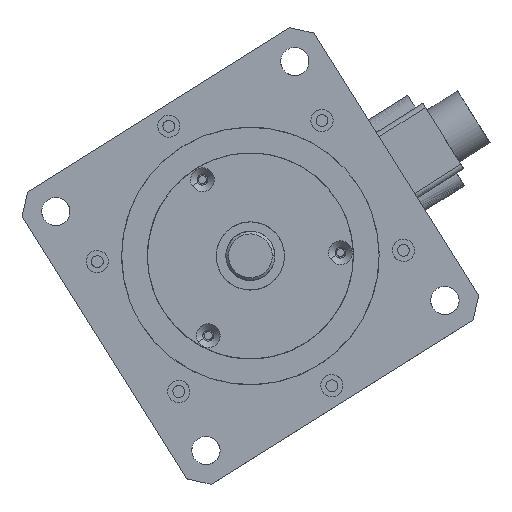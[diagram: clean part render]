
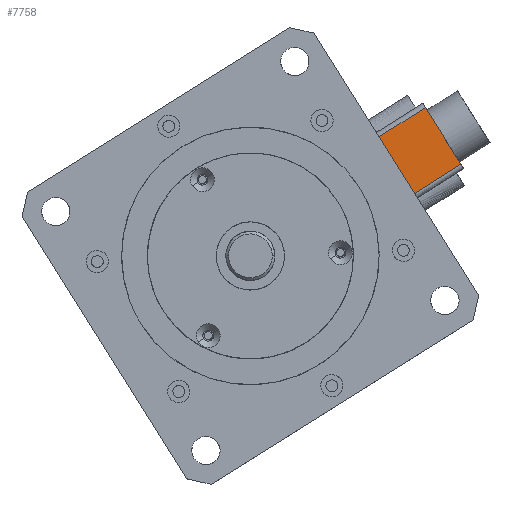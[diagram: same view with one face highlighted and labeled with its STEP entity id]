
A CAD part, top view. The second image highlights one B-rep face of the part: STEP entity #7758.
In plain terms, the highlighted free-form (B-spline) face has degree [1, 1] with [2, 2] control points.
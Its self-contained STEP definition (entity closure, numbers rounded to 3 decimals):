
#73 = CARTESIAN_POINT ( 'NONE',  ( 13., 15., 20.929 ) ) ;
#152 = CARTESIAN_POINT ( 'NONE',  ( 13., 15., -3.3 ) ) ;
#174 = ORIENTED_EDGE ( 'NONE', *, *, #539, .T. ) ;
#539 = EDGE_CURVE ( 'NONE', #8440, #9231, #5257, .T. ) ;
#865 = CARTESIAN_POINT ( 'NONE',  ( 4.36, 15., 19.735 ) ) ;
#1174 = EDGE_CURVE ( 'NONE', #9231, #2225, #7919, .T. ) ;
#1232 = CARTESIAN_POINT ( 'NONE',  ( 13., 15., 21.075 ) ) ;
#1254 = ORIENTED_EDGE ( 'NONE', *, *, #1397, .T. ) ;
#1397 = EDGE_CURVE ( 'NONE', #5768, #8440, #3508, .T. ) ;
#1444 = CARTESIAN_POINT ( 'NONE',  ( 13., 15., 20.929 ) ) ;
#1653 = CARTESIAN_POINT ( 'NONE',  ( -4.36, 15., 19.735 ) ) ;
#2025 = FACE_OUTER_BOUND ( 'NONE', #10025, .T. ) ;
#2225 = VERTEX_POINT ( 'NONE', #4874 ) ;
#2380 = B_SPLINE_CURVE_WITH_KNOTS ( 'NONE', 1,
 ( #152, #3376 ),
 .UNSPECIFIED., .F., .F.,
 ( 2, 2 ),
 ( 0., 1. ),
 .UNSPECIFIED. ) ;
#2458 = CARTESIAN_POINT ( 'NONE',  ( -13., 15., 20.929 ) ) ;
#2506 = CARTESIAN_POINT ( 'NONE',  ( -13., 15., 20.929 ) ) ;
#3376 = CARTESIAN_POINT ( 'NONE',  ( -13., 15., -3.3 ) ) ;
#3508 = B_SPLINE_CURVE_WITH_KNOTS ( 'NONE', 1,
 ( #7293, #2506 ),
 .UNSPECIFIED., .F., .F.,
 ( 2, 2 ),
 ( 0., 1. ),
 .UNSPECIFIED. ) ;
#4091 = CARTESIAN_POINT ( 'NONE',  ( 8.705, 15., 20.171 ) ) ;
#4304 = CARTESIAN_POINT ( 'NONE',  ( -13., 15., -3.3 ) ) ;
#4465 = CARTESIAN_POINT ( 'NONE',  ( -13., 15., -3.3 ) ) ;
#4725 = CARTESIAN_POINT ( 'NONE',  ( -13., 15., 20.929 ) ) ;
#4874 = CARTESIAN_POINT ( 'NONE',  ( 13., 15., -3.3 ) ) ;
#4891 = CARTESIAN_POINT ( 'NONE',  ( -2.183, 15., 19.626 ) ) ;
#4978 = CARTESIAN_POINT ( 'NONE',  ( 13., 15., 20.929 ) ) ;
#5257 = B_SPLINE_CURVE_WITH_KNOTS ( 'NONE', 3,
 ( #2458, #5669, #8860, #1653, #4891, #8083, #865, #4091, #7299, #73 ),
 .UNSPECIFIED., .F., .F.,
 ( 4, 2, 2, 2, 4 ),
 ( 0., 0.1, 0.2, 0.3, 0.4 ),
 .UNSPECIFIED. ) ;
#5518 = ORIENTED_EDGE ( 'NONE', *, *, #1174, .T. ) ;
#5562 = B_SPLINE_SURFACE_WITH_KNOTS ( 'NONE', 1, 1, ( 
 ( #8451, #1232 ),
 ( #4465, #7660 ) ),
 .UNSPECIFIED., .F., .F., .F.,
 ( 2, 2 ),
 ( 2, 2 ),
 ( 0., 1. ),
 ( 0., 1. ),
 .UNSPECIFIED. ) ;
#5669 = CARTESIAN_POINT ( 'NONE',  ( -10.86, 15., 20.496 ) ) ;
#5765 = ORIENTED_EDGE ( 'NONE', *, *, #9839, .T. ) ;
#5768 = VERTEX_POINT ( 'NONE', #4304 ) ;
#7293 = CARTESIAN_POINT ( 'NONE',  ( -13., 15., -3.3 ) ) ;
#7299 = CARTESIAN_POINT ( 'NONE',  ( 10.86, 15., 20.496 ) ) ;
#7660 = CARTESIAN_POINT ( 'NONE',  ( -13., 15., 21.075 ) ) ;
#7758 = ADVANCED_FACE ( 'NONE', ( #2025 ), #5562, .T. ) ;
#7919 = B_SPLINE_CURVE_WITH_KNOTS ( 'NONE', 1,
 ( #4978, #8170 ),
 .UNSPECIFIED., .F., .F.,
 ( 2, 2 ),
 ( 0., 1. ),
 .UNSPECIFIED. ) ;
#8083 = CARTESIAN_POINT ( 'NONE',  ( 2.183, 15., 19.626 ) ) ;
#8170 = CARTESIAN_POINT ( 'NONE',  ( 13., 15., -3.3 ) ) ;
#8440 = VERTEX_POINT ( 'NONE', #4725 ) ;
#8451 = CARTESIAN_POINT ( 'NONE',  ( 13., 15., -3.3 ) ) ;
#8860 = CARTESIAN_POINT ( 'NONE',  ( -8.705, 15., 20.171 ) ) ;
#9231 = VERTEX_POINT ( 'NONE', #1444 ) ;
#9839 = EDGE_CURVE ( 'NONE', #2225, #5768, #2380, .T. ) ;
#10025 = EDGE_LOOP ( 'NONE', ( #5765, #1254, #174, #5518 ) ) ;
